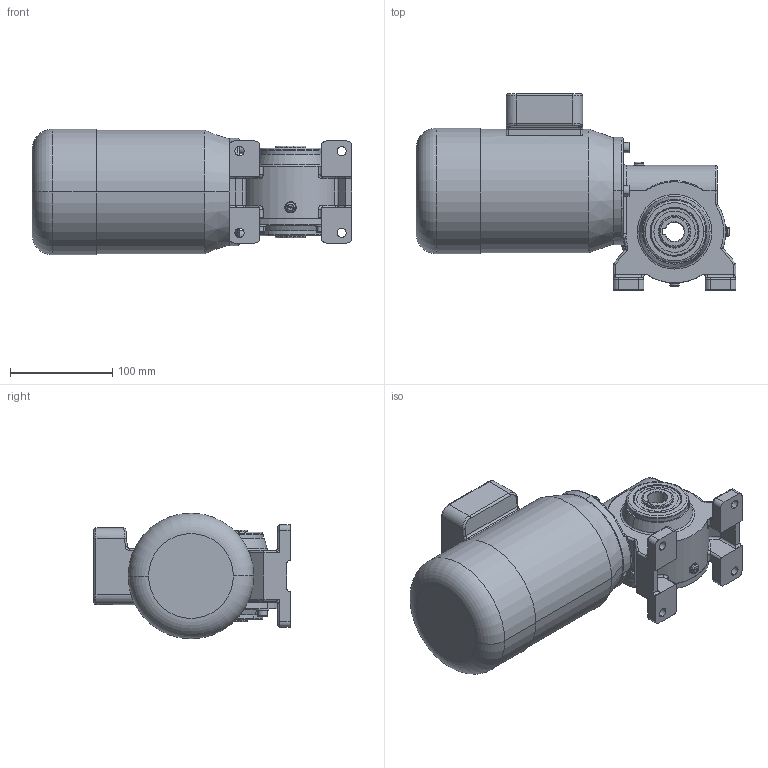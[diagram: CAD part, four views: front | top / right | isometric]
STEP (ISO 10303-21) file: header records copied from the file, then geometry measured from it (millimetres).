
FILE_DESCRIPTION (( 'STEP AP214' ), '1' );
FILE_NAME ('SN9SHH_120W_Drehstrom-Motor_D.STEP', '2021-05-10T10:13:11', ( '' ), ( '' ), 'SwSTEP 2.0', 'SolidWorks 2019', '' );
FILE_SCHEMA (( 'AUTOMOTIVE_DESIGN' ));
Length unit declared in the file: millimetre
Products named in the file (1): SN9SHH_120W_Drehstrom-Motor_D
Bounding box: 313 x 192 x 123 mm (x, y, z)
Surface area: 196159.8 mm2 (no closed solid volume)
Topology: 0 solids, 29 shells, 460 faces, 1229 edges, 771 vertices
Faces by surface type: cylinder 165, plane 149, torus 71, cone 47, bspline 24, sphere 4
Entity records: 21122 total; most frequent: CARTESIAN_POINT 4729, DIRECTION 2526, ORIENTED_EDGE 2162, EDGE_CURVE 1197, AXIS2_PLACEMENT_3D 1015, VERTEX_POINT 767, CIRCLE 578, EDGE_LOOP 526
